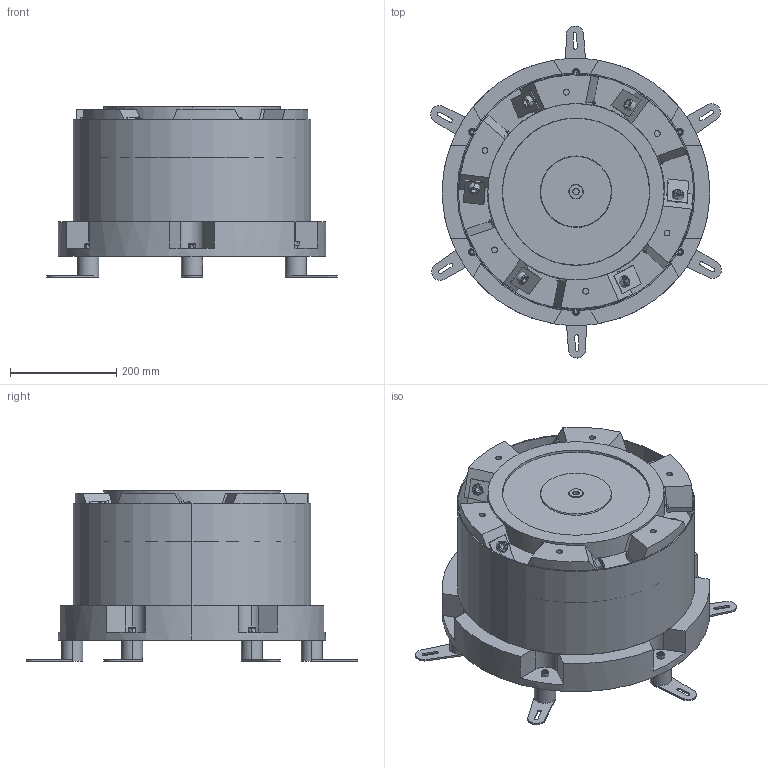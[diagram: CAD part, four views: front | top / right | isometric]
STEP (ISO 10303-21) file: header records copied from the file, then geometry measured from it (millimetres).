
FILE_DESCRIPTION (( 'STEP AP214' ), '1' );
FILE_NAME ('DE450 臏裔.STEP', '2025-07-26T02:47:40', ( '' ), ( '' ), 'SwSTEP 2.0', 'SolidWorks 2022', '' );
FILE_SCHEMA (( 'AUTOMOTIVE_DESIGN' ));
Length unit declared in the file: millimetre
Products named in the file (1): DE450   臏裔
Bounding box: 548.29 x 625.73 x 321.5 mm (x, y, z)
Volume: 29732493.4 mm3; surface area: 2098792.2 mm2
Topology: 32 solids, 32 shells, 985 faces, 2428 edges, 1528 vertices
Faces by surface type: plane 405, cylinder 296, bspline 155, cone 129
Entity records: 42603 total; most frequent: CARTESIAN_POINT 21016, ORIENTED_EDGE 4808, DIRECTION 3756, EDGE_CURVE 2404, VERTEX_POINT 1527, AXIS2_PLACEMENT_3D 1441, EDGE_LOOP 1081, ADVANCED_FACE 985
